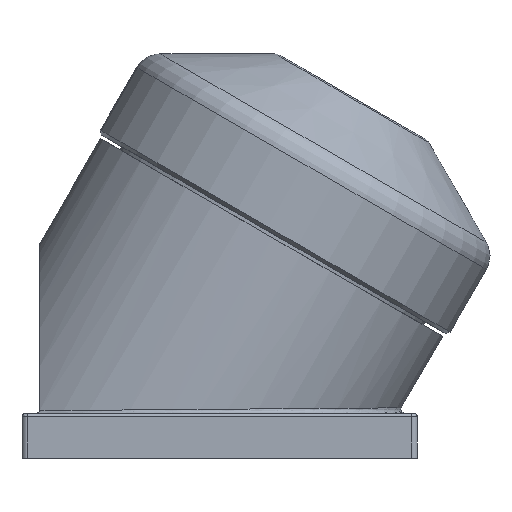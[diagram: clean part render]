
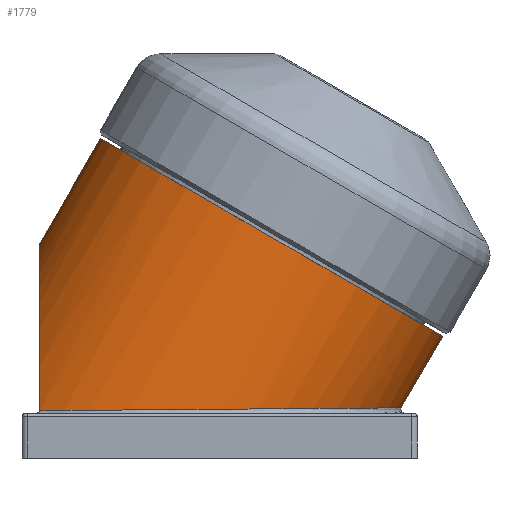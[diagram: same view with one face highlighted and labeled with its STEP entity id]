
A CAD part, left-side view. The second image highlights one B-rep face of the part: STEP entity #1779.
In plain terms, the highlighted cylindrical face has radius 110 mm (diameter 220 mm), a full revolution.
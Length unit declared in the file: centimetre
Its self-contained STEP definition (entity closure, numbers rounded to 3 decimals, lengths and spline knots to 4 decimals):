
#19=ELLIPSE('',#1988,22.,11.);
#23=ELLIPSE('',#2028,12.7598,11.);
#30=B_SPLINE_CURVE_WITH_KNOTS('',3,(#3091,#3092,#3093,#3094,#3095,#3096,
#3097,#3098,#3099,#3100,#3101,#3102,#3103,#3104,#3105,#3106,#3107,#3108),
 .UNSPECIFIED.,.F.,.F.,(4,2,2,2,2,2,2,2,4),(0.8494,1.0617,
1.2741,1.4864,1.6987,1.911,2.1234,
2.3357,2.5481),.UNSPECIFIED.);
#31=B_SPLINE_CURVE_WITH_KNOTS('',3,(#3109,#3110,#3111,#3112,#3113,#3114,
#3115,#3116,#3117,#3118,#3119,#3120,#3121,#3122,#3123,#3124,#3125,#3126,
#3127),.UNSPECIFIED.,.F.,.F.,(4,2,2,2,3,2,2,2,4),(2.5481,2.7604,
2.9728,3.1851,3.3974,3.6098,3.8221,
4.0344,4.2468),.UNSPECIFIED.);
#32=B_SPLINE_CURVE_WITH_KNOTS('',3,(#3229,#3230,#3231,#3232,#3233,#3234),
 .UNSPECIFIED.,.F.,.F.,(4,2,4),(0.5758,0.604,0.6333),
 .UNSPECIFIED.);
#33=B_SPLINE_CURVE_WITH_KNOTS('',3,(#3235,#3236,#3237,#3238,#3239,#3240),
 .UNSPECIFIED.,.F.,.F.,(4,2,4),(0.724,0.7533,0.7815),
 .UNSPECIFIED.);
#239=FACE_BOUND('',#639,.T.);
#240=FACE_BOUND('',#640,.T.);
#299=CYLINDRICAL_SURFACE('',#2027,11.);
#417=FACE_OUTER_BOUND('',#638,.T.);
#638=EDGE_LOOP('',(#1448));
#639=EDGE_LOOP('',(#1449,#1450,#1451,#1452));
#640=EDGE_LOOP('',(#1453,#1454));
#727=CIRCLE('',#1918,11.);
#863=VERTEX_POINT('',#2841);
#913=VERTEX_POINT('',#3043);
#914=VERTEX_POINT('',#3044);
#918=VERTEX_POINT('',#3089);
#919=VERTEX_POINT('',#3090);
#938=VERTEX_POINT('',#3226);
#939=VERTEX_POINT('',#3227);
#1025=EDGE_CURVE('',#863,#863,#727,.T.);
#1080=EDGE_CURVE('',#914,#913,#19,.T.);
#1084=EDGE_CURVE('',#918,#919,#30,.T.);
#1085=EDGE_CURVE('',#919,#918,#31,.T.);
#1118=EDGE_CURVE('',#938,#939,#23,.T.);
#1119=EDGE_CURVE('',#914,#938,#32,.T.);
#1120=EDGE_CURVE('',#939,#913,#33,.T.);
#1448=ORIENTED_EDGE('',*,*,#1025,.T.);
#1449=ORIENTED_EDGE('',*,*,#1118,.F.);
#1450=ORIENTED_EDGE('',*,*,#1119,.F.);
#1451=ORIENTED_EDGE('',*,*,#1080,.T.);
#1452=ORIENTED_EDGE('',*,*,#1120,.F.);
#1453=ORIENTED_EDGE('',*,*,#1084,.T.);
#1454=ORIENTED_EDGE('',*,*,#1085,.T.);
#1779=ADVANCED_FACE('',(#417,#239,#240),#299,.T.);
#1918=AXIS2_PLACEMENT_3D('',#2842,#2306,#2307);
#1988=AXIS2_PLACEMENT_3D('',#3046,#2458,#2459);
#2027=AXIS2_PLACEMENT_3D('',#3225,#2546,#2547);
#2028=AXIS2_PLACEMENT_3D('',#3228,#2548,#2549);
#2306=DIRECTION('center_axis',(0.,0.5,-0.866));
#2307=DIRECTION('ref_axis',(1.,0.,0.));
#2458=DIRECTION('center_axis',(0.,-1.,0.));
#2459=DIRECTION('ref_axis',(0.,0.,
1.));
#2546=DIRECTION('center_axis',(0.,0.5,-0.866));
#2547=DIRECTION('ref_axis',(-1.,0.,0.));
#2548=DIRECTION('center_axis',(0.,-0.008,
-1.));
#2549=DIRECTION('ref_axis',(0.,-1.,0.008));
#2841=CARTESIAN_POINT('',(-11.,0.95,12.2846));
#2842=CARTESIAN_POINT('Origin',(0.,0.95,
12.2846));
#3043=CARTESIAN_POINT('',(-8.9655,13.843,2.7));
#3044=CARTESIAN_POINT('',(8.9655,13.843,2.7));
#3046=CARTESIAN_POINT('Origin',(0.,13.843,-10.0468));
#3089=CARTESIAN_POINT('',(11.,2.3819,9.8044));
#3090=CARTESIAN_POINT('',(11.,1.8181,10.781));
#3091=CARTESIAN_POINT('Ctrl Pts',(11.,2.3819,9.8044));
#3092=CARTESIAN_POINT('Ctrl Pts',(11.,2.3206,9.769));
#3093=CARTESIAN_POINT('Ctrl Pts',(10.9992,2.2481,9.7435));
#3094=CARTESIAN_POINT('Ctrl Pts',(10.9965,2.0991,9.724));
#3095=CARTESIAN_POINT('Ctrl Pts',(10.9946,2.0226,9.7299));
#3096=CARTESIAN_POINT('Ctrl Pts',(10.991,1.8859,9.7666));
#3097=CARTESIAN_POINT('Ctrl Pts',(10.989,1.8167,9.7999));
#3098=CARTESIAN_POINT('Ctrl Pts',(10.9863,1.6975,9.8914));
#3099=CARTESIAN_POINT('Ctrl Pts',(10.9856,1.6475,9.9497));
#3100=CARTESIAN_POINT('Ctrl Pts',(10.9856,1.5767,10.0723));
#3101=CARTESIAN_POINT('Ctrl Pts',(10.9863,1.5512,10.1447));
#3102=CARTESIAN_POINT('Ctrl Pts',(10.989,1.5315,10.2937));
#3103=CARTESIAN_POINT('Ctrl Pts',(10.991,1.5374,10.3703));
#3104=CARTESIAN_POINT('Ctrl Pts',(10.9946,1.5739,10.507));
#3105=CARTESIAN_POINT('Ctrl Pts',(10.9965,1.6071,10.5763));
#3106=CARTESIAN_POINT('Ctrl Pts',(10.9992,1.6985,10.6956));
#3107=CARTESIAN_POINT('Ctrl Pts',(11.,1.7568,10.7456));
#3108=CARTESIAN_POINT('Ctrl Pts',(11.,1.8181,10.781));
#3109=CARTESIAN_POINT('Ctrl Pts',(11.,1.8181,10.781));
#3110=CARTESIAN_POINT('Ctrl Pts',(11.,1.8794,10.8164));
#3111=CARTESIAN_POINT('Ctrl Pts',(10.9992,1.9519,10.8418));
#3112=CARTESIAN_POINT('Ctrl Pts',(10.9965,2.1009,10.8614));
#3113=CARTESIAN_POINT('Ctrl Pts',(10.9946,2.1774,10.8555));
#3114=CARTESIAN_POINT('Ctrl Pts',(10.991,2.3141,10.8188));
#3115=CARTESIAN_POINT('Ctrl Pts',(10.989,2.3833,10.7855));
#3116=CARTESIAN_POINT('Ctrl Pts',(10.9863,2.5025,10.694));
#3117=CARTESIAN_POINT('Ctrl Pts',(10.9856,2.5525,10.6357));
#3118=CARTESIAN_POINT('Ctrl Pts',(10.9856,2.5879,10.5744));
#3119=CARTESIAN_POINT('Ctrl Pts',(10.9856,2.6233,10.5131));
#3120=CARTESIAN_POINT('Ctrl Pts',(10.9863,2.6488,10.4406));
#3121=CARTESIAN_POINT('Ctrl Pts',(10.989,2.6685,10.2916));
#3122=CARTESIAN_POINT('Ctrl Pts',(10.991,2.6626,10.2151));
#3123=CARTESIAN_POINT('Ctrl Pts',(10.9946,2.6261,10.0784));
#3124=CARTESIAN_POINT('Ctrl Pts',(10.9965,2.5929,10.0091));
#3125=CARTESIAN_POINT('Ctrl Pts',(10.9992,2.5015,9.8898));
#3126=CARTESIAN_POINT('Ctrl Pts',(11.,2.4432,9.8398));
#3127=CARTESIAN_POINT('Ctrl Pts',(11.,2.3819,9.8044));
#3225=CARTESIAN_POINT('Origin',(0.,4.4965,6.1418));
#3226=CARTESIAN_POINT('',(8.9807,13.8515,2.6423));
#3227=CARTESIAN_POINT('',(-8.9807,13.8515,2.6423));
#3228=CARTESIAN_POINT('Origin',(0.,6.4836,2.7));
#3229=CARTESIAN_POINT('Ctrl Pts',(8.9655,13.843,2.7));
#3230=CARTESIAN_POINT('Ctrl Pts',(8.9688,13.843,2.6907));
#3231=CARTESIAN_POINT('Ctrl Pts',(8.9718,13.8437,2.6812));
#3232=CARTESIAN_POINT('Ctrl Pts',(8.9769,13.8465,2.6618));
#3233=CARTESIAN_POINT('Ctrl Pts',(8.9791,13.8486,2.6519));
#3234=CARTESIAN_POINT('Ctrl Pts',(8.9807,13.8515,2.6423));
#3235=CARTESIAN_POINT('Ctrl Pts',(-8.9807,13.8515,2.6423));
#3236=CARTESIAN_POINT('Ctrl Pts',(-8.9791,13.8486,2.6519));
#3237=CARTESIAN_POINT('Ctrl Pts',(-8.9769,13.8465,2.6618));
#3238=CARTESIAN_POINT('Ctrl Pts',(-8.9718,13.8437,2.6812));
#3239=CARTESIAN_POINT('Ctrl Pts',(-8.9688,13.843,2.6907));
#3240=CARTESIAN_POINT('Ctrl Pts',(-8.9655,13.843,2.7));
